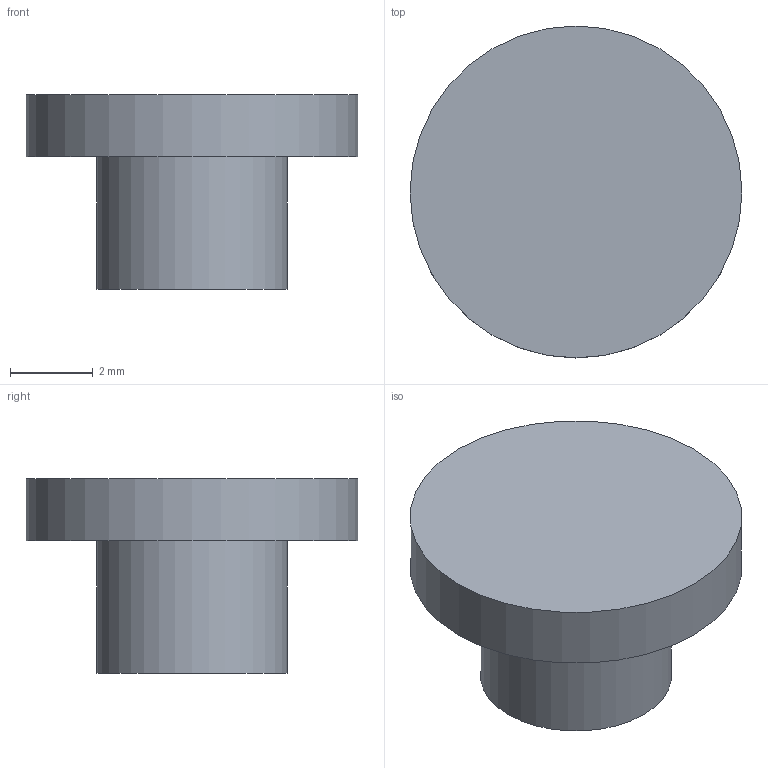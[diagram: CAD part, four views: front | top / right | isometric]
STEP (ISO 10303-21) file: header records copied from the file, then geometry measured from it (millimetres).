
FILE_DESCRIPTION(('Open CASCADE Model'),'2;1');
FILE_NAME('Open CASCADE Shape Model','2026-07-19T18:50:27',('Author'),( 'Open CASCADE'),'Open CASCADE STEP processor 7.9','Open CASCADE 7.9' ,'Unknown');
FILE_SCHEMA(('AUTOMOTIVE_DESIGN { 1 0 10303 214 1 1 1 1 }'));
Length unit declared in the file: millimetre
Products named in the file (1): Open CASCADE STEP translator 7.9 4
Bounding box: 8 x 8 x 4.7 mm (x, y, z)
Volume: 128.6 mm3; surface area: 184.5 mm2
Topology: 1 solids, 1 shells, 5 faces, 6 edges, 4 vertices
Faces by surface type: plane 3, cylinder 2
Full cylindrical faces by diameter (mm): 4.6 x1, 8 x1
Entity records: 192 total; most frequent: DIRECTION 34, CARTESIAN_POINT 28, ORIENTED_EDGE 12, PCURVE 12, DEFINITIONAL_REPRESENTATION 12, AXIS2_PLACEMENT_3D 10, LINE 10, VECTOR 10
